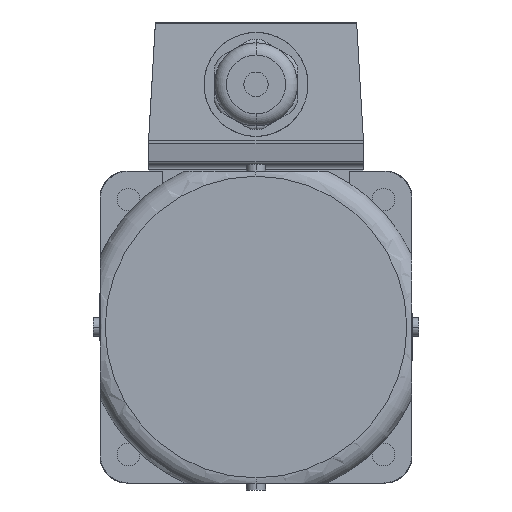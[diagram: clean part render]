
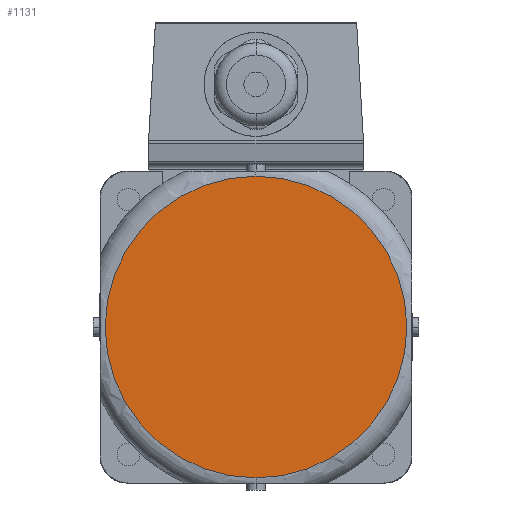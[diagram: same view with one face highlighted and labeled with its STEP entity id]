
A CAD part, left-side view. The second image highlights one B-rep face of the part: STEP entity #1131.
In plain terms, the highlighted planar face has unit normal (-1, 0, 0).
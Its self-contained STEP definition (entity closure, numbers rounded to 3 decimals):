
#1111=CARTESIAN_POINT('POINT207594',(-200.,0.,
   25.5));
#1112=VERTEX_POINT('VERTEX207594',#1111);
#1113=CARTESIAN_POINT('POINT207595',(-200.,0.,
   -61.5));
#1114=VERTEX_POINT('VERTEX207595',#1113);
#1115=CARTESIAN_POINT('POS339590',(-200.,0.,-18.));
#1116=DIRECTION('DIR512523',(-1.,0.,0.));
#1117=DIRECTION('DIR512524',(0.,0.,-1.));
#1118=AXIS2_PLACEMENT_3D('AXIS172934',#1115,#1116,#1117);
#1119=CIRCLE('ELLIPSE81937',#1118,43.5);
#1120=EDGE_CURVE('EDGE317770',#1112,#1114,#1119,.T.);
#1121=ORIENTED_EDGE('COEDGE635521',*,*,#1120,.T.);
#1122=EDGE_CURVE('EDGE317771',#1114,#1112,#1119,.T.);
#1123=ORIENTED_EDGE('COEDGE635522',*,*,#1122,.T.);
#1124=EDGE_LOOP('NONE',(#1121,#1123));
#1125=FACE_BOUND('LOOP1',#1124,.T.);
#1126=CARTESIAN_POINT('POS339591',(-200.,0.,
   4.25));
#1127=DIRECTION('DIR512525',(-1.,0.,0.));
#1128=DIRECTION('DIR512526',(0.,1.,0.));
#1129=AXIS2_PLACEMENT_3D('AXIS172935',#1126,#1127,#1128);
#1130=PLANE('PLANE54813',#1129);
#1131=ADVANCED_FACE('FACE130633',(#1125),#1130,.T.);
